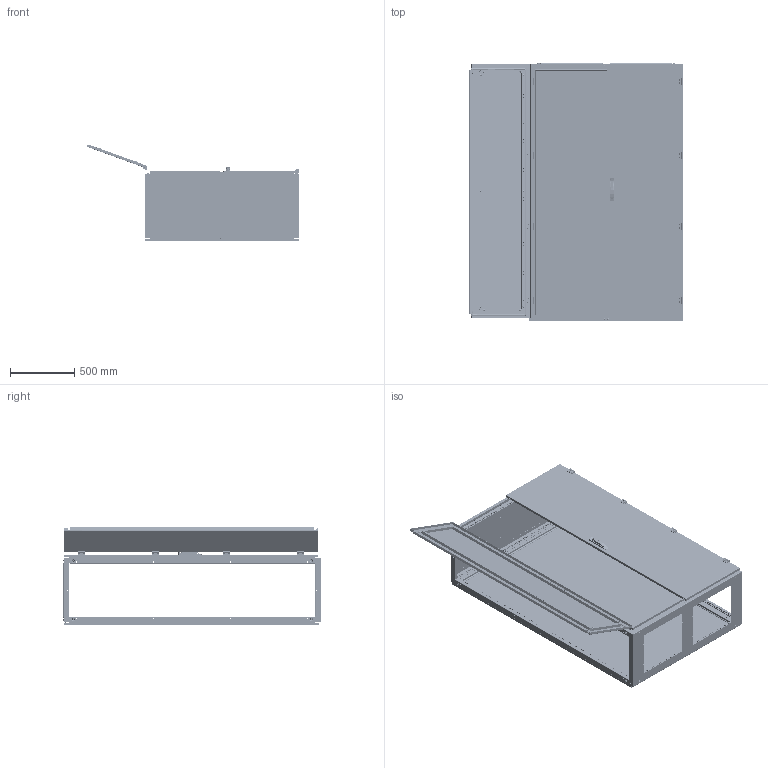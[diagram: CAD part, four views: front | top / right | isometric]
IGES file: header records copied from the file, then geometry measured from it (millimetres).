
Start section: SolidWorks IGES file using analytic representation for surfaces
Global section: file name: U:\14_RD\05_Technical_office\04_Office\Hrdinova\3D modely - IGES\Distri\QA201205.IGS; native system: SolidWorks 2011; preprocessor: SolidWorks 2011; author: adhrja3; date: 170613.122515; units: millimetre
Bounding box: 1668.78 x 2004.5 x 762.7 mm (x, y, z)
Surface area: 18079980.3 mm2 (no closed solid volume)
Topology: 0 solids, 0 shells, 9207 faces, 157405 edges, 157090 vertices
Faces by surface type: bspline 4820, revolution 4387
